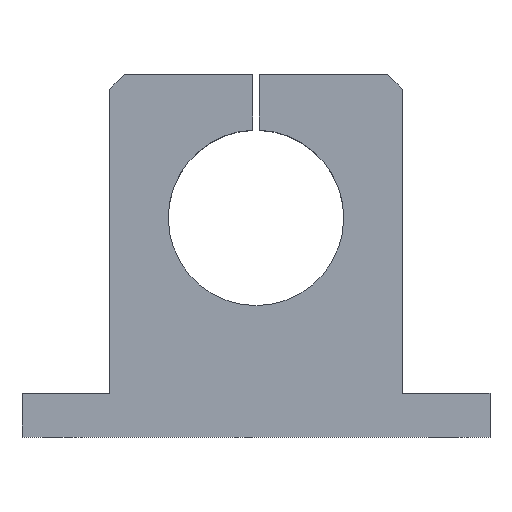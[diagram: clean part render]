
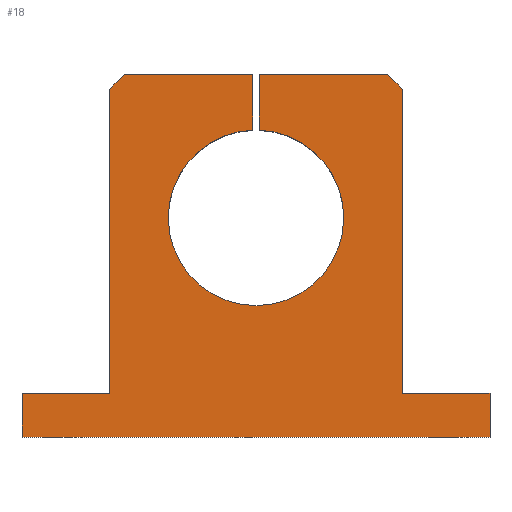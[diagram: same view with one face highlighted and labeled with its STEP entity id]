
A CAD part, top view. The second image highlights one B-rep face of the part: STEP entity #18.
In plain terms, the highlighted planar face has unit normal (0, 0, 1).
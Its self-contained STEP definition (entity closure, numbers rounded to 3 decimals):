
#5 = EDGE_CURVE ( 'NONE', #675, #164, #358, .T. ) ;
#8 = VERTEX_POINT ( 'NONE', #440 ) ;
#16 = ORIENTED_EDGE ( 'NONE', *, *, #467, .F. ) ;
#18 = ADVANCED_FACE ( 'NONE', ( #363 ), #286, .T. ) ;
#20 = ORIENTED_EDGE ( 'NONE', *, *, #514, .T. ) ;
#26 = EDGE_CURVE ( 'NONE', #492, #1028, #925, .T. ) ;
#37 = DIRECTION ( 'NONE',  ( 0., -1., 0. ) ) ;
#45 = DIRECTION ( 'NONE',  ( 1., 0., 0. ) ) ;
#48 = DIRECTION ( 'NONE',  ( 1., 0., 0. ) ) ;
#52 = EDGE_CURVE ( 'NONE', #346, #675, #775, .T. ) ;
#56 = CARTESIAN_POINT ( 'NONE',  ( -1.075, 62., 24. ) ) ;
#58 = DIRECTION ( 'NONE',  ( 1., 0., 0. ) ) ;
#71 = CARTESIAN_POINT ( 'NONE',  ( -80., 62., 24. ) ) ;
#75 = VECTOR ( 'NONE', #37, 1000. ) ;
#83 = EDGE_CURVE ( 'NONE', #262, #164, #1003, .T. ) ;
#96 = EDGE_CURVE ( 'NONE', #575, #8, #872, .T. ) ;
#108 = EDGE_CURVE ( 'NONE', #8, #455, #212, .T. ) ;
#110 = VECTOR ( 'NONE', #474, 1000. ) ;
#113 = VECTOR ( 'NONE', #469, 1000. ) ;
#121 = DIRECTION ( 'NONE',  ( 0., 1., 0. ) ) ;
#122 = DIRECTION ( 'NONE',  ( 1., 0., 0. ) ) ;
#151 = DIRECTION ( 'NONE',  ( -1., 0., 0. ) ) ;
#164 = VERTEX_POINT ( 'NONE', #727 ) ;
#202 = CARTESIAN_POINT ( 'NONE',  ( -1.075, 9.52, 24. ) ) ;
#203 = CARTESIAN_POINT ( 'NONE',  ( 0., 0., 24. ) ) ;
#212 = LINE ( 'NONE', #535, #929 ) ;
#227 = DIRECTION ( 'NONE',  ( 0., 0., 1. ) ) ;
#231 = VECTOR ( 'NONE', #543, 1000. ) ;
#233 = ORIENTED_EDGE ( 'NONE', *, *, #818, .T. ) ;
#254 = ORIENTED_EDGE ( 'NONE', *, *, #683, .T. ) ;
#257 = DIRECTION ( 'NONE',  ( -0.707, 0.707, 0. ) ) ;
#262 = VERTEX_POINT ( 'NONE', #790 ) ;
#264 = CIRCLE ( 'NONE', #352, 30. ) ;
#270 = EDGE_CURVE ( 'NONE', #661, #262, #864, .T. ) ;
#286 = PLANE ( 'NONE',  #889 ) ;
#295 = ORIENTED_EDGE ( 'NONE', *, *, #1033, .F. ) ;
#300 = CARTESIAN_POINT ( 'NONE',  ( 1.075, 62., 24. ) ) ;
#302 = CARTESIAN_POINT ( 'NONE',  ( -80., -62., 24. ) ) ;
#308 = CARTESIAN_POINT ( 'NONE',  ( 50., 57., 24. ) ) ;
#311 = DIRECTION ( 'NONE',  ( 1., 0., 0. ) ) ;
#315 = ORIENTED_EDGE ( 'NONE', *, *, #26, .F. ) ;
#316 = CARTESIAN_POINT ( 'NONE',  ( 0., 13., 24. ) ) ;
#320 = DIRECTION ( 'NONE',  ( -1., 0., 0. ) ) ;
#346 = VERTEX_POINT ( 'NONE', #819 ) ;
#352 = AXIS2_PLACEMENT_3D ( 'NONE', #316, #227, #396 ) ;
#358 = LINE ( 'NONE', #834, #481 ) ;
#363 = FACE_OUTER_BOUND ( 'NONE', #787, .T. ) ;
#377 = CARTESIAN_POINT ( 'NONE',  ( 80., -47., 24. ) ) ;
#396 = DIRECTION ( 'NONE',  ( 1., 0., 0. ) ) ;
#406 = CARTESIAN_POINT ( 'NONE',  ( -30., 13., 24. ) ) ;
#414 = CARTESIAN_POINT ( 'NONE',  ( 53.5, 53.5, 24. ) ) ;
#440 = CARTESIAN_POINT ( 'NONE',  ( 1.075, 42.981, 24. ) ) ;
#446 = DIRECTION ( 'NONE',  ( 0., 0., 1. ) ) ;
#451 = LINE ( 'NONE', #554, #635 ) ;
#455 = VERTEX_POINT ( 'NONE', #300 ) ;
#463 = VECTOR ( 'NONE', #48, 1000. ) ;
#467 = EDGE_CURVE ( 'NONE', #660, #758, #1000, .T. ) ;
#469 = DIRECTION ( 'NONE',  ( 0., -1., 0. ) ) ;
#474 = DIRECTION ( 'NONE',  ( 0., -1., 0. ) ) ;
#481 = VECTOR ( 'NONE', #121, 1000. ) ;
#485 = CARTESIAN_POINT ( 'NONE',  ( 50., 62., 24. ) ) ;
#490 = LINE ( 'NONE', #414, #811 ) ;
#492 = VERTEX_POINT ( 'NONE', #707 ) ;
#502 = EDGE_CURVE ( 'NONE', #1028, #728, #1020, .T. ) ;
#514 = EDGE_CURVE ( 'NONE', #919, #728, #936, .T. ) ;
#524 = ORIENTED_EDGE ( 'NONE', *, *, #83, .F. ) ;
#535 = CARTESIAN_POINT ( 'NONE',  ( 1.075, 9.52, 24. ) ) ;
#543 = DIRECTION ( 'NONE',  ( 0., 1., 0. ) ) ;
#554 = CARTESIAN_POINT ( 'NONE',  ( -80., 62., 24. ) ) ;
#575 = VERTEX_POINT ( 'NONE', #839 ) ;
#576 = CARTESIAN_POINT ( 'NONE',  ( -1.075, 42.981, 24. ) ) ;
#584 = AXIS2_PLACEMENT_3D ( 'NONE', #760, #842, #700 ) ;
#604 = ORIENTED_EDGE ( 'NONE', *, *, #502, .F. ) ;
#609 = LINE ( 'NONE', #1007, #113 ) ;
#611 = CARTESIAN_POINT ( 'NONE',  ( -53.5, 53.5, 24. ) ) ;
#623 = DIRECTION ( 'NONE',  ( -0.707, -0.707, 0. ) ) ;
#625 = CARTESIAN_POINT ( 'NONE',  ( -50., 57., 24. ) ) ;
#628 = EDGE_CURVE ( 'NONE', #758, #791, #264, .T. ) ;
#635 = VECTOR ( 'NONE', #151, 1000. ) ;
#660 = VERTEX_POINT ( 'NONE', #56 ) ;
#661 = VERTEX_POINT ( 'NONE', #308 ) ;
#662 = EDGE_CURVE ( 'NONE', #945, #455, #451, .T. ) ;
#675 = VERTEX_POINT ( 'NONE', #922 ) ;
#683 = EDGE_CURVE ( 'NONE', #492, #346, #609, .T. ) ;
#700 = DIRECTION ( 'NONE',  ( 1., 0., 0. ) ) ;
#707 = CARTESIAN_POINT ( 'NONE',  ( -80., -47., 24. ) ) ;
#727 = CARTESIAN_POINT ( 'NONE',  ( 80., -47., 24. ) ) ;
#728 = VERTEX_POINT ( 'NONE', #625 ) ;
#738 = CARTESIAN_POINT ( 'NONE',  ( 45., 62., 24. ) ) ;
#741 = CARTESIAN_POINT ( 'NONE',  ( -45., 62., 24. ) ) ;
#747 = ORIENTED_EDGE ( 'NONE', *, *, #270, .F. ) ;
#758 = VERTEX_POINT ( 'NONE', #576 ) ;
#760 = CARTESIAN_POINT ( 'NONE',  ( 0., 13., 24. ) ) ;
#763 = AXIS2_PLACEMENT_3D ( 'NONE', #1016, #932, #58 ) ;
#775 = LINE ( 'NONE', #302, #463 ) ;
#784 = VECTOR ( 'NONE', #320, 1000. ) ;
#787 = EDGE_LOOP ( 'NONE', ( #982, #971, #295, #838, #16, #233, #20, #604, #315, #254, #998, #887, #524, #747, #980, #879 ) ) ;
#790 = CARTESIAN_POINT ( 'NONE',  ( 50., -47., 24. ) ) ;
#791 = VERTEX_POINT ( 'NONE', #406 ) ;
#801 = LINE ( 'NONE', #71, #784 ) ;
#811 = VECTOR ( 'NONE', #257, 1000. ) ;
#812 = EDGE_CURVE ( 'NONE', #661, #945, #490, .T. ) ;
#818 = EDGE_CURVE ( 'NONE', #660, #919, #801, .T. ) ;
#819 = CARTESIAN_POINT ( 'NONE',  ( -80., -62., 24. ) ) ;
#834 = CARTESIAN_POINT ( 'NONE',  ( 80., 62., 24. ) ) ;
#838 = ORIENTED_EDGE ( 'NONE', *, *, #628, .F. ) ;
#839 = CARTESIAN_POINT ( 'NONE',  ( 30., 13., 24. ) ) ;
#842 = DIRECTION ( 'NONE',  ( 0., 0., 1. ) ) ;
#848 = DIRECTION ( 'NONE',  ( 0., 1., 0. ) ) ;
#864 = LINE ( 'NONE', #485, #110 ) ;
#872 = CIRCLE ( 'NONE', #763, 30. ) ;
#879 = ORIENTED_EDGE ( 'NONE', *, *, #662, .T. ) ;
#887 = ORIENTED_EDGE ( 'NONE', *, *, #5, .T. ) ;
#889 = AXIS2_PLACEMENT_3D ( 'NONE', #203, #446, #45 ) ;
#902 = VECTOR ( 'NONE', #122, 1000. ) ;
#911 = CARTESIAN_POINT ( 'NONE',  ( -80., -47., 24. ) ) ;
#919 = VERTEX_POINT ( 'NONE', #741 ) ;
#921 = CARTESIAN_POINT ( 'NONE',  ( -50., -47., 24. ) ) ;
#922 = CARTESIAN_POINT ( 'NONE',  ( 80., -62., 24. ) ) ;
#925 = LINE ( 'NONE', #911, #902 ) ;
#929 = VECTOR ( 'NONE', #848, 1000. ) ;
#932 = DIRECTION ( 'NONE',  ( 0., 0., 1. ) ) ;
#936 = LINE ( 'NONE', #611, #1029 ) ;
#945 = VERTEX_POINT ( 'NONE', #738 ) ;
#971 = ORIENTED_EDGE ( 'NONE', *, *, #96, .F. ) ;
#980 = ORIENTED_EDGE ( 'NONE', *, *, #812, .T. ) ;
#982 = ORIENTED_EDGE ( 'NONE', *, *, #108, .F. ) ;
#998 = ORIENTED_EDGE ( 'NONE', *, *, #52, .T. ) ;
#1000 = LINE ( 'NONE', #202, #75 ) ;
#1003 = LINE ( 'NONE', #377, #1026 ) ;
#1007 = CARTESIAN_POINT ( 'NONE',  ( -80., 62., 24. ) ) ;
#1016 = CARTESIAN_POINT ( 'NONE',  ( 0., 13., 24. ) ) ;
#1018 = CIRCLE ( 'NONE', #584, 30. ) ;
#1020 = LINE ( 'NONE', #1023, #231 ) ;
#1023 = CARTESIAN_POINT ( 'NONE',  ( -50., 62., 24. ) ) ;
#1026 = VECTOR ( 'NONE', #311, 1000. ) ;
#1028 = VERTEX_POINT ( 'NONE', #921 ) ;
#1029 = VECTOR ( 'NONE', #623, 1000. ) ;
#1033 = EDGE_CURVE ( 'NONE', #791, #575, #1018, .T. ) ;
